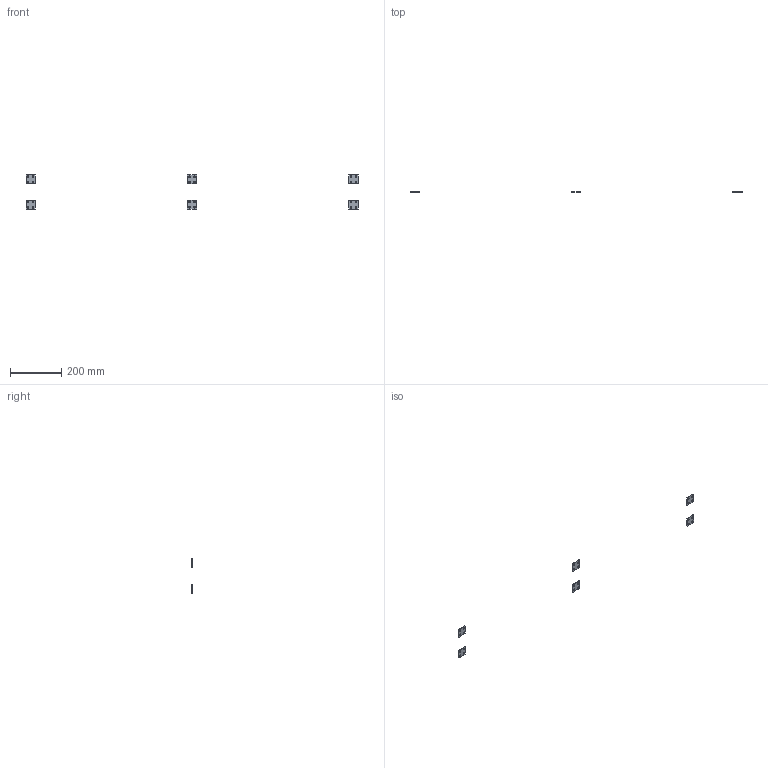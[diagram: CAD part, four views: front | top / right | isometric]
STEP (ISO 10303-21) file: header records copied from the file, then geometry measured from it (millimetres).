
FILE_DESCRIPTION(/* description */ (''),/* implementation_level */ '2;1');
FILE_NAME(/* name */ 'FR54BF~1',/* time_stamp */ '2014-02-14T19:34:26+01:00',/* author */ (''),/* organization */ (''),/* preprocessor_version */ 'ST-DEVELOPER v14',/* originating_system */ '',/* authorisation */ '');
FILE_SCHEMA (('AUTOMOTIVE_DESIGN'));
Length unit declared in the file: millimetre
Products named in the file (2): Document; plate bracket, double
Assembly tree (3 placements, depth 2):
  Document
    plate bracket, double  x3
Bounding box: 1296 x 2.3 x 136 mm (x, y, z)
Volume: 16546.4 mm3; surface area: 17294.4 mm2
Topology: 6 solids, 6 shells, 108 faces, 288 edges, 192 vertices
Faces by surface type: bspline 72, plane 36
Entity records: 4941 total; most frequent: CARTESIAN_POINT 2430, ORIENTED_EDGE 384, PCURVE 384, DEFINITIONAL_REPRESENTATION 384, B_SPLINE_CURVE_WITH_KNOTS 384, SURFACE_CURVE 192, EDGE_CURVE 192, VERTEX_POINT 128
